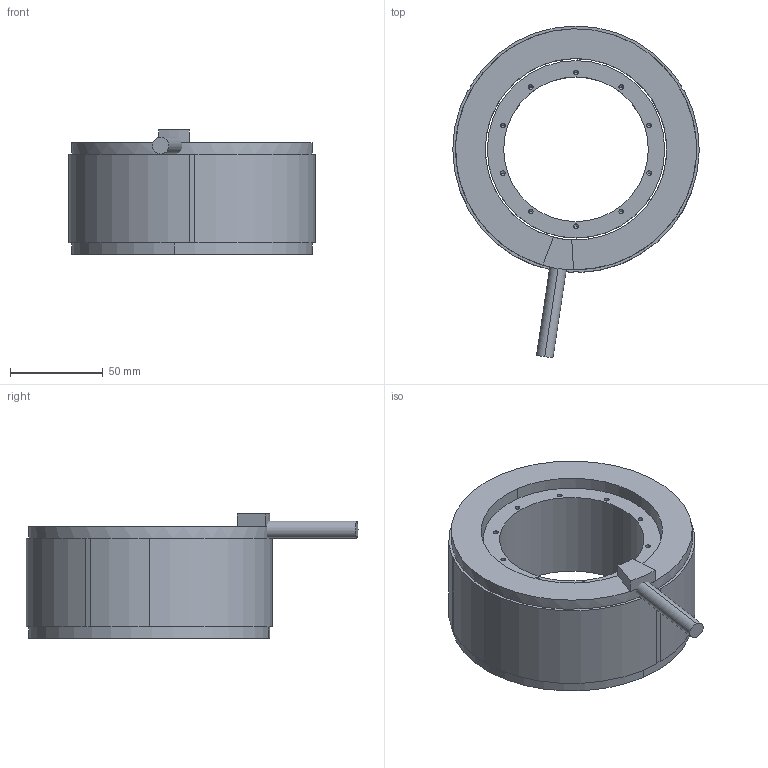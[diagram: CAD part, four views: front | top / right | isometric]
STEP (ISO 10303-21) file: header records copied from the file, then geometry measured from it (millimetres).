
FILE_DESCRIPTION (( 'STEP AP203' ), '1' );
FILE_NAME ('TMXSL133-60 KIT 3D.STEP', '2021-06-21T05:52:33', ( '' ), ( '' ), 'SwSTEP 2.0', 'SolidWorks 2021', '' );
FILE_SCHEMA (( 'CONFIG_CONTROL_DESIGN' ));
Length unit declared in the file: millimetre
Products named in the file (1): TMXSL133-60 KIT 3D
Bounding box: 133 x 179.12 x 67 mm (x, y, z)
Volume: 495038.4 mm3; surface area: 91149.4 mm2
Topology: 3 solids, 3 shells, 120 faces, 291 edges, 158 vertices
Faces by surface type: cylinder 58, cone 40, plane 22
Entity records: 3292 total; most frequent: DIRECTION 613, CARTESIAN_POINT 530, ORIENTED_EDGE 502, EDGE_CURVE 251, AXIS2_PLACEMENT_3D 241, VERTEX_POINT 158, EDGE_LOOP 145, LINE 131
